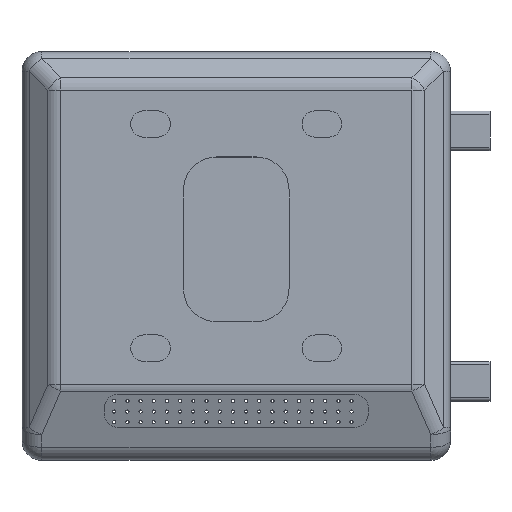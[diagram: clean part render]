
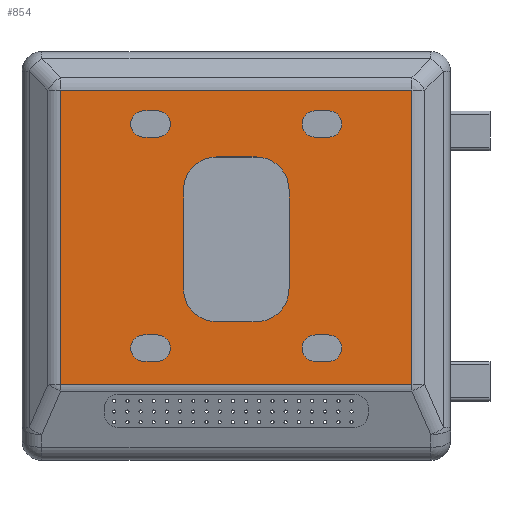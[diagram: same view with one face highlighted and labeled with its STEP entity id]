
A CAD part, top view. The second image highlights one B-rep face of the part: STEP entity #854.
In plain terms, the highlighted planar face has unit normal (0, 0, 1).
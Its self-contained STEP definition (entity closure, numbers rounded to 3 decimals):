
#854=ADVANCED_FACE('',(#1327,#1328,#1329,#1330,#1331,#1332),#1173,.T.);
#1173=PLANE('',#6352);
#1327=FACE_BOUND('',#1666,.T.);
#1328=FACE_BOUND('',#1667,.T.);
#1329=FACE_BOUND('',#1668,.T.);
#1330=FACE_BOUND('',#1669,.T.);
#1331=FACE_BOUND('',#1670,.T.);
#1332=FACE_BOUND('',#1671,.T.);
#1666=EDGE_LOOP('',(#2696,#2697,#2698,#2699));
#1667=EDGE_LOOP('',(#2700,#2701,#2702,#2703,#2704,#2705,#2706,#2707));
#1668=EDGE_LOOP('',(#2708,#2709,#2710,#2711));
#1669=EDGE_LOOP('',(#2712,#2713,#2714,#2715));
#1670=EDGE_LOOP('',(#2716,#2717,#2718,#2719));
#1671=EDGE_LOOP('',(#2720,#2721,#2722,#2723));
#2228=CIRCLE('',#6340,5.);
#2229=CIRCLE('',#6341,5.);
#2230=CIRCLE('',#6342,5.);
#2231=CIRCLE('',#6343,5.);
#2232=CIRCLE('',#6344,2.);
#2233=CIRCLE('',#6345,2.);
#2234=CIRCLE('',#6346,2.);
#2235=CIRCLE('',#6347,2.);
#2236=CIRCLE('',#6348,2.);
#2237=CIRCLE('',#6349,2.);
#2238=CIRCLE('',#6350,2.);
#2239=CIRCLE('',#6351,2.);
#2696=ORIENTED_EDGE('',*,*,#4745,.T.);
#2697=ORIENTED_EDGE('',*,*,#4746,.T.);
#2698=ORIENTED_EDGE('',*,*,#4747,.T.);
#2699=ORIENTED_EDGE('',*,*,#4748,.T.);
#2700=ORIENTED_EDGE('',*,*,#4749,.T.);
#2701=ORIENTED_EDGE('',*,*,#4750,.T.);
#2702=ORIENTED_EDGE('',*,*,#4751,.T.);
#2703=ORIENTED_EDGE('',*,*,#4752,.T.);
#2704=ORIENTED_EDGE('',*,*,#4753,.T.);
#2705=ORIENTED_EDGE('',*,*,#4754,.T.);
#2706=ORIENTED_EDGE('',*,*,#4755,.T.);
#2707=ORIENTED_EDGE('',*,*,#4756,.T.);
#2708=ORIENTED_EDGE('',*,*,#4757,.T.);
#2709=ORIENTED_EDGE('',*,*,#4758,.T.);
#2710=ORIENTED_EDGE('',*,*,#4759,.T.);
#2711=ORIENTED_EDGE('',*,*,#4760,.T.);
#2712=ORIENTED_EDGE('',*,*,#4761,.T.);
#2713=ORIENTED_EDGE('',*,*,#4762,.T.);
#2714=ORIENTED_EDGE('',*,*,#4763,.T.);
#2715=ORIENTED_EDGE('',*,*,#4764,.T.);
#2716=ORIENTED_EDGE('',*,*,#4765,.T.);
#2717=ORIENTED_EDGE('',*,*,#4766,.T.);
#2718=ORIENTED_EDGE('',*,*,#4767,.T.);
#2719=ORIENTED_EDGE('',*,*,#4768,.T.);
#2720=ORIENTED_EDGE('',*,*,#4769,.T.);
#2721=ORIENTED_EDGE('',*,*,#4770,.T.);
#2722=ORIENTED_EDGE('',*,*,#4771,.T.);
#2723=ORIENTED_EDGE('',*,*,#4772,.T.);
#4167=VERTEX_POINT('',#8948);
#4168=VERTEX_POINT('',#8949);
#4169=VERTEX_POINT('',#8951);
#4170=VERTEX_POINT('',#8953);
#4171=VERTEX_POINT('',#8956);
#4172=VERTEX_POINT('',#8957);
#4173=VERTEX_POINT('',#8959);
#4174=VERTEX_POINT('',#8961);
#4175=VERTEX_POINT('',#8963);
#4176=VERTEX_POINT('',#8965);
#4177=VERTEX_POINT('',#8967);
#4178=VERTEX_POINT('',#8969);
#4179=VERTEX_POINT('',#8972);
#4180=VERTEX_POINT('',#8973);
#4181=VERTEX_POINT('',#8975);
#4182=VERTEX_POINT('',#8977);
#4183=VERTEX_POINT('',#8980);
#4184=VERTEX_POINT('',#8981);
#4185=VERTEX_POINT('',#8983);
#4186=VERTEX_POINT('',#8985);
#4187=VERTEX_POINT('',#8988);
#4188=VERTEX_POINT('',#8989);
#4189=VERTEX_POINT('',#8991);
#4190=VERTEX_POINT('',#8993);
#4191=VERTEX_POINT('',#8996);
#4192=VERTEX_POINT('',#8997);
#4193=VERTEX_POINT('',#8999);
#4194=VERTEX_POINT('',#9001);
#4745=EDGE_CURVE('',#4167,#4168,#5439,.T.);
#4746=EDGE_CURVE('',#4168,#4169,#5440,.T.);
#4747=EDGE_CURVE('',#4169,#4170,#5441,.T.);
#4748=EDGE_CURVE('',#4170,#4167,#5442,.T.);
#4749=EDGE_CURVE('',#4171,#4172,#5443,.T.);
#4750=EDGE_CURVE('',#4172,#4173,#2228,.T.);
#4751=EDGE_CURVE('',#4173,#4174,#5444,.T.);
#4752=EDGE_CURVE('',#4174,#4175,#2229,.T.);
#4753=EDGE_CURVE('',#4175,#4176,#5445,.T.);
#4754=EDGE_CURVE('',#4176,#4177,#2230,.T.);
#4755=EDGE_CURVE('',#4177,#4178,#5446,.T.);
#4756=EDGE_CURVE('',#4178,#4171,#2231,.T.);
#4757=EDGE_CURVE('',#4179,#4180,#2232,.T.);
#4758=EDGE_CURVE('',#4180,#4181,#5447,.T.);
#4759=EDGE_CURVE('',#4181,#4182,#2233,.T.);
#4760=EDGE_CURVE('',#4182,#4179,#5448,.T.);
#4761=EDGE_CURVE('',#4183,#4184,#2234,.T.);
#4762=EDGE_CURVE('',#4184,#4185,#5449,.T.);
#4763=EDGE_CURVE('',#4185,#4186,#2235,.T.);
#4764=EDGE_CURVE('',#4186,#4183,#5450,.T.);
#4765=EDGE_CURVE('',#4187,#4188,#2236,.T.);
#4766=EDGE_CURVE('',#4188,#4189,#5451,.T.);
#4767=EDGE_CURVE('',#4189,#4190,#2237,.T.);
#4768=EDGE_CURVE('',#4190,#4187,#5452,.T.);
#4769=EDGE_CURVE('',#4191,#4192,#2238,.T.);
#4770=EDGE_CURVE('',#4192,#4193,#5453,.T.);
#4771=EDGE_CURVE('',#4193,#4194,#2239,.T.);
#4772=EDGE_CURVE('',#4194,#4191,#5454,.T.);
#5439=LINE('',#8947,#5879);
#5440=LINE('',#8950,#5880);
#5441=LINE('',#8952,#5881);
#5442=LINE('',#8954,#5882);
#5443=LINE('',#8955,#5883);
#5444=LINE('',#8960,#5884);
#5445=LINE('',#8964,#5885);
#5446=LINE('',#8968,#5886);
#5447=LINE('',#8974,#5887);
#5448=LINE('',#8978,#5888);
#5449=LINE('',#8982,#5889);
#5450=LINE('',#8986,#5890);
#5451=LINE('',#8990,#5891);
#5452=LINE('',#8994,#5892);
#5453=LINE('',#8998,#5893);
#5454=LINE('',#9002,#5894);
#5879=VECTOR('',#7170,1.);
#5880=VECTOR('',#7171,1.);
#5881=VECTOR('',#7172,1.);
#5882=VECTOR('',#7173,1.);
#5883=VECTOR('',#7174,1.);
#5884=VECTOR('',#7177,1.);
#5885=VECTOR('',#7180,1.);
#5886=VECTOR('',#7183,1.);
#5887=VECTOR('',#7188,1.);
#5888=VECTOR('',#7191,1.);
#5889=VECTOR('',#7194,1.);
#5890=VECTOR('',#7197,1.);
#5891=VECTOR('',#7200,1.);
#5892=VECTOR('',#7203,1.);
#5893=VECTOR('',#7206,1.);
#5894=VECTOR('',#7209,1.);
#6340=AXIS2_PLACEMENT_3D('',#8958,#7175,#7176);
#6341=AXIS2_PLACEMENT_3D('',#8962,#7178,#7179);
#6342=AXIS2_PLACEMENT_3D('',#8966,#7181,#7182);
#6343=AXIS2_PLACEMENT_3D('',#8970,#7184,#7185);
#6344=AXIS2_PLACEMENT_3D('',#8971,#7186,#7187);
#6345=AXIS2_PLACEMENT_3D('',#8976,#7189,#7190);
#6346=AXIS2_PLACEMENT_3D('',#8979,#7192,#7193);
#6347=AXIS2_PLACEMENT_3D('',#8984,#7195,#7196);
#6348=AXIS2_PLACEMENT_3D('',#8987,#7198,#7199);
#6349=AXIS2_PLACEMENT_3D('',#8992,#7201,#7202);
#6350=AXIS2_PLACEMENT_3D('',#8995,#7204,#7205);
#6351=AXIS2_PLACEMENT_3D('',#9000,#7207,#7208);
#6352=AXIS2_PLACEMENT_3D('',#9003,#7210,#7211);
#7170=DIRECTION('',(-1.,0.,0.));
#7171=DIRECTION('',(0.,-1.,0.));
#7172=DIRECTION('',(1.,0.,0.));
#7173=DIRECTION('',(0.,1.,0.));
#7174=DIRECTION('',(0.,-1.,0.));
#7175=DIRECTION('',(0.,0.,-1.));
#7176=DIRECTION('',(1.,0.,0.));
#7177=DIRECTION('',(-1.,0.,0.));
#7178=DIRECTION('',(0.,0.,-1.));
#7179=DIRECTION('',(1.,0.,0.));
#7180=DIRECTION('',(0.,1.,0.));
#7181=DIRECTION('',(0.,0.,-1.));
#7182=DIRECTION('',(1.,0.,0.));
#7183=DIRECTION('',(1.,0.,0.));
#7184=DIRECTION('',(0.,0.,-1.));
#7185=DIRECTION('',(1.,0.,0.));
#7186=DIRECTION('',(0.,0.,-1.));
#7187=DIRECTION('',(1.,0.,0.));
#7188=DIRECTION('',(-1.,0.,0.));
#7189=DIRECTION('',(0.,0.,-1.));
#7190=DIRECTION('',(1.,0.,0.));
#7191=DIRECTION('',(1.,0.,0.));
#7192=DIRECTION('',(0.,0.,-1.));
#7193=DIRECTION('',(1.,0.,0.));
#7194=DIRECTION('',(-1.,0.,0.));
#7195=DIRECTION('',(0.,0.,-1.));
#7196=DIRECTION('',(1.,0.,0.));
#7197=DIRECTION('',(1.,0.,0.));
#7198=DIRECTION('',(0.,0.,-1.));
#7199=DIRECTION('',(1.,0.,0.));
#7200=DIRECTION('',(-1.,0.,0.));
#7201=DIRECTION('',(0.,0.,-1.));
#7202=DIRECTION('',(1.,0.,0.));
#7203=DIRECTION('',(1.,0.,0.));
#7204=DIRECTION('',(0.,0.,-1.));
#7205=DIRECTION('',(1.,0.,0.));
#7206=DIRECTION('',(-1.,0.,0.));
#7207=DIRECTION('',(0.,0.,-1.));
#7208=DIRECTION('',(1.,0.,0.));
#7209=DIRECTION('',(1.,0.,0.));
#7210=DIRECTION('',(0.,0.,1.));
#7211=DIRECTION('',(1.,0.,0.));
#8947=CARTESIAN_POINT('',(0.,25.141,18.));
#8948=CARTESIAN_POINT('',(26.641,25.141,18.));
#8949=CARTESIAN_POINT('',(-26.641,25.141,18.));
#8950=CARTESIAN_POINT('',(-26.641,0.,18.));
#8951=CARTESIAN_POINT('',(-26.641,-19.481,18.));
#8952=CARTESIAN_POINT('',(0.,-19.481,18.));
#8953=CARTESIAN_POINT('',(26.641,-19.481,18.));
#8954=CARTESIAN_POINT('',(26.641,0.,18.));
#8955=CARTESIAN_POINT('',(8.,0.,18.));
#8956=CARTESIAN_POINT('',(8.,10.,18.));
#8957=CARTESIAN_POINT('',(8.,-5.,18.));
#8958=CARTESIAN_POINT('',(3.,-5.,18.));
#8959=CARTESIAN_POINT('',(3.,-10.,18.));
#8960=CARTESIAN_POINT('',(0.,-10.,18.));
#8961=CARTESIAN_POINT('',(-3.,-10.,18.));
#8962=CARTESIAN_POINT('',(-3.,-5.,18.));
#8963=CARTESIAN_POINT('',(-8.,-5.,18.));
#8964=CARTESIAN_POINT('',(-8.,0.,18.));
#8965=CARTESIAN_POINT('',(-8.,10.,18.));
#8966=CARTESIAN_POINT('',(-3.,10.,18.));
#8967=CARTESIAN_POINT('',(-3.,15.,18.));
#8968=CARTESIAN_POINT('',(0.,15.,18.));
#8969=CARTESIAN_POINT('',(3.,15.,18.));
#8970=CARTESIAN_POINT('',(3.,10.,18.));
#8971=CARTESIAN_POINT('',(-12.,-14.,18.));
#8972=CARTESIAN_POINT('',(-12.,-12.,18.));
#8973=CARTESIAN_POINT('',(-12.,-16.,18.));
#8974=CARTESIAN_POINT('',(0.,-16.,18.));
#8975=CARTESIAN_POINT('',(-14.,-16.,18.));
#8976=CARTESIAN_POINT('',(-14.,-14.,18.));
#8977=CARTESIAN_POINT('',(-14.,-12.,18.));
#8978=CARTESIAN_POINT('',(0.,-12.,18.));
#8979=CARTESIAN_POINT('',(14.,-14.,18.));
#8980=CARTESIAN_POINT('',(14.,-12.,18.));
#8981=CARTESIAN_POINT('',(14.,-16.,18.));
#8982=CARTESIAN_POINT('',(0.,-16.,18.));
#8983=CARTESIAN_POINT('',(12.,-16.,18.));
#8984=CARTESIAN_POINT('',(12.,-14.,18.));
#8985=CARTESIAN_POINT('',(12.,-12.,18.));
#8986=CARTESIAN_POINT('',(0.,-12.,18.));
#8987=CARTESIAN_POINT('',(-12.,20.,18.));
#8988=CARTESIAN_POINT('',(-12.,22.,18.));
#8989=CARTESIAN_POINT('',(-12.,18.,18.));
#8990=CARTESIAN_POINT('',(0.,18.,18.));
#8991=CARTESIAN_POINT('',(-14.,18.,18.));
#8992=CARTESIAN_POINT('',(-14.,20.,18.));
#8993=CARTESIAN_POINT('',(-14.,22.,18.));
#8994=CARTESIAN_POINT('',(0.,22.,18.));
#8995=CARTESIAN_POINT('',(14.,20.,18.));
#8996=CARTESIAN_POINT('',(14.,22.,18.));
#8997=CARTESIAN_POINT('',(14.,18.,18.));
#8998=CARTESIAN_POINT('',(0.,18.,18.));
#8999=CARTESIAN_POINT('',(12.,18.,18.));
#9000=CARTESIAN_POINT('',(12.,20.,18.));
#9001=CARTESIAN_POINT('',(12.,22.,18.));
#9002=CARTESIAN_POINT('',(0.,22.,18.));
#9003=CARTESIAN_POINT('',(0.,0.,18.));
